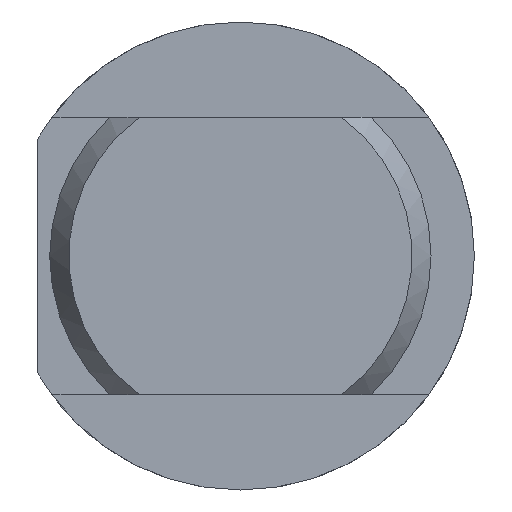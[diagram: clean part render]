
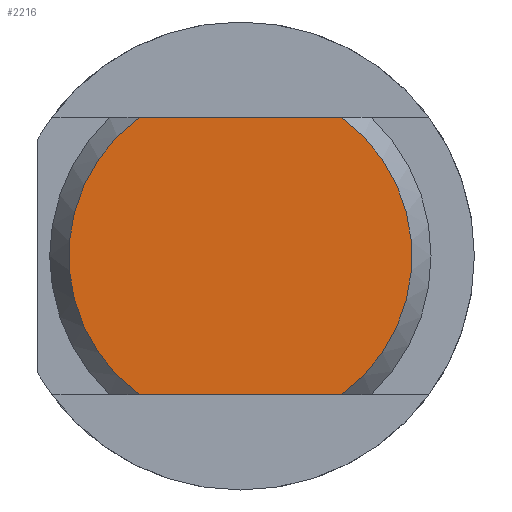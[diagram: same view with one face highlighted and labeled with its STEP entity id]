
A CAD part, left-side view. The second image highlights one B-rep face of the part: STEP entity #2216.
In plain terms, the highlighted planar face has unit normal (-1, 0, 0).
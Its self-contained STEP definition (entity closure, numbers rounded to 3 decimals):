
#149 = VECTOR ( 'NONE', #996, 1000. ) ;
#177 = VERTEX_POINT ( 'NONE', #1187 ) ;
#214 = ORIENTED_EDGE ( 'NONE', *, *, #1504, .T. ) ;
#266 = DIRECTION ( 'NONE',  ( 1., 0., 0. ) ) ;
#286 = EDGE_LOOP ( 'NONE', ( #2937, #214, #331, #876 ) ) ;
#331 = ORIENTED_EDGE ( 'NONE', *, *, #1761, .T. ) ;
#400 = CIRCLE ( 'NONE', #2387, 9.9 ) ;
#424 = CARTESIAN_POINT ( 'NONE',  ( -190., 0., 0. ) ) ;
#502 = EDGE_CURVE ( 'NONE', #177, #1566, #2992, .T. ) ;
#520 = DIRECTION ( 'NONE',  ( 0., 0., -1. ) ) ;
#796 = CARTESIAN_POINT ( 'NONE',  ( -190., -5.832, -8. ) ) ;
#876 = ORIENTED_EDGE ( 'NONE', *, *, #1640, .F. ) ;
#996 = DIRECTION ( 'NONE',  ( 0., 1., 0. ) ) ;
#1132 = CARTESIAN_POINT ( 'NONE',  ( -190., 0., 0. ) ) ;
#1187 = CARTESIAN_POINT ( 'NONE',  ( -190., -5.832, 8. ) ) ;
#1192 = CARTESIAN_POINT ( 'NONE',  ( -190., 5.832, 8. ) ) ;
#1444 = DIRECTION ( 'NONE',  ( 0., 0., 1. ) ) ;
#1504 = EDGE_CURVE ( 'NONE', #1566, #1768, #2229, .T. ) ;
#1566 = VERTEX_POINT ( 'NONE', #1192 ) ;
#1640 = EDGE_CURVE ( 'NONE', #177, #3184, #400, .T. ) ;
#1664 = DIRECTION ( 'NONE',  ( -1., 0., 0. ) ) ;
#1756 = VECTOR ( 'NONE', #3059, 1000. ) ;
#1761 = EDGE_CURVE ( 'NONE', #1768, #3184, #2359, .T. ) ;
#1768 = VERTEX_POINT ( 'NONE', #2560 ) ;
#1775 = CARTESIAN_POINT ( 'NONE',  ( -190., 0., 0. ) ) ;
#1898 = DIRECTION ( 'NONE',  ( -1., 0., 0. ) ) ;
#1916 = DIRECTION ( 'NONE',  ( 0., 0., -1. ) ) ;
#2216 = ADVANCED_FACE ( 'NONE', ( #2997 ), #3130, .T. ) ;
#2229 = CIRCLE ( 'NONE', #2273, 9.9 ) ;
#2273 = AXIS2_PLACEMENT_3D ( 'NONE', #1132, #1898, #1916 ) ;
#2296 = CARTESIAN_POINT ( 'NONE',  ( -190., 11.7, -8. ) ) ;
#2359 = LINE ( 'NONE', #2296, #1756 ) ;
#2387 = AXIS2_PLACEMENT_3D ( 'NONE', #1775, #266, #520 ) ;
#2480 = CARTESIAN_POINT ( 'NONE',  ( -190., 11.7, 8. ) ) ;
#2560 = CARTESIAN_POINT ( 'NONE',  ( -190., 5.832, -8. ) ) ;
#2867 = AXIS2_PLACEMENT_3D ( 'NONE', #424, #1664, #1444 ) ;
#2937 = ORIENTED_EDGE ( 'NONE', *, *, #502, .T. ) ;
#2992 = LINE ( 'NONE', #2480, #149 ) ;
#2997 = FACE_OUTER_BOUND ( 'NONE', #286, .T. ) ;
#3059 = DIRECTION ( 'NONE',  ( 0., -1., 0. ) ) ;
#3130 = PLANE ( 'NONE',  #2867 ) ;
#3184 = VERTEX_POINT ( 'NONE', #796 ) ;
